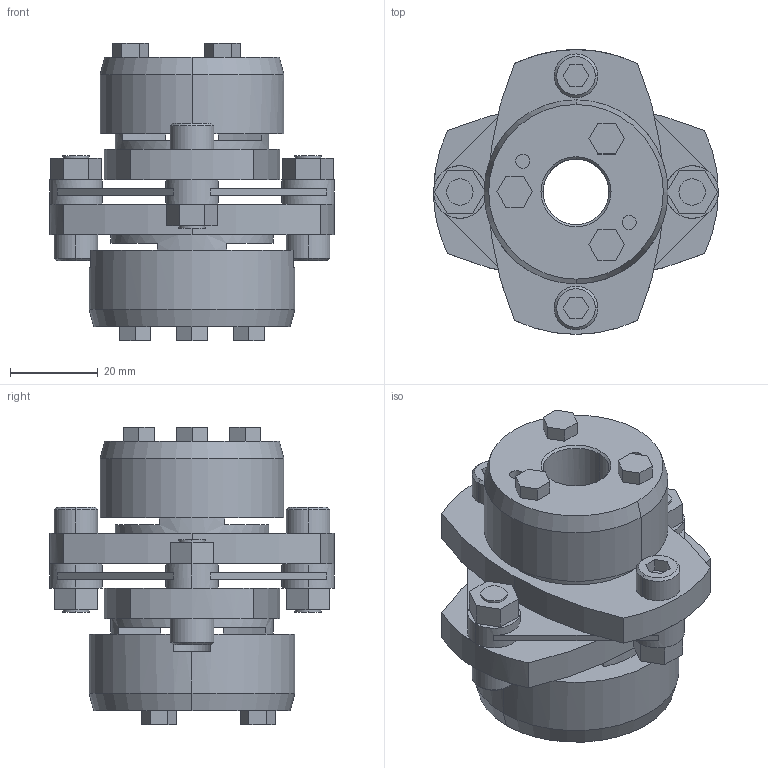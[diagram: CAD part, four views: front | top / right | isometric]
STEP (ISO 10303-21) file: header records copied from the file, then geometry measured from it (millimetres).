
FILE_DESCRIPTION((''),'2;1');
FILE_NAME('LCS-65T7-15×17.stp','2011-08-23T13:09:14',(''),(''),'AutoCAD STEP 2000i','AutoCAD 2000i',', , ');
FILE_SCHEMA(('CONFIG_CONTROL_DESIGN'));
Length unit declared in the file: millimetre
Products named in the file (6): LCS-65T7-15×17; 忣兜1; LC65T7-T017; LC65T7-T015-1; LC65T7-T015; LCS65-ITA
Assembly tree (5 placements, depth 2):
  LCS-65T7-15×17
    忣兜1
    LC65T7-T017
    LC65T7-T015-1
    LC65T7-T015
    LCS65-ITA
Bounding box: 65 x 65 x 67.9 mm (x, y, z)
Volume: 88011.2 mm3; surface area: 29189.7 mm2
Topology: 1 solids, 1 shells, 224 faces, 575 edges, 375 vertices
Faces by surface type: plane 134, cylinder 70, cone 20
Entity records: 7023 total; most frequent: DIRECTION 1238, CARTESIAN_POINT 1180, ORIENTED_EDGE 1150, EDGE_CURVE 575, AXIS2_PLACEMENT_3D 433, VERTEX_POINT 375, VECTOR 372, LINE 372
